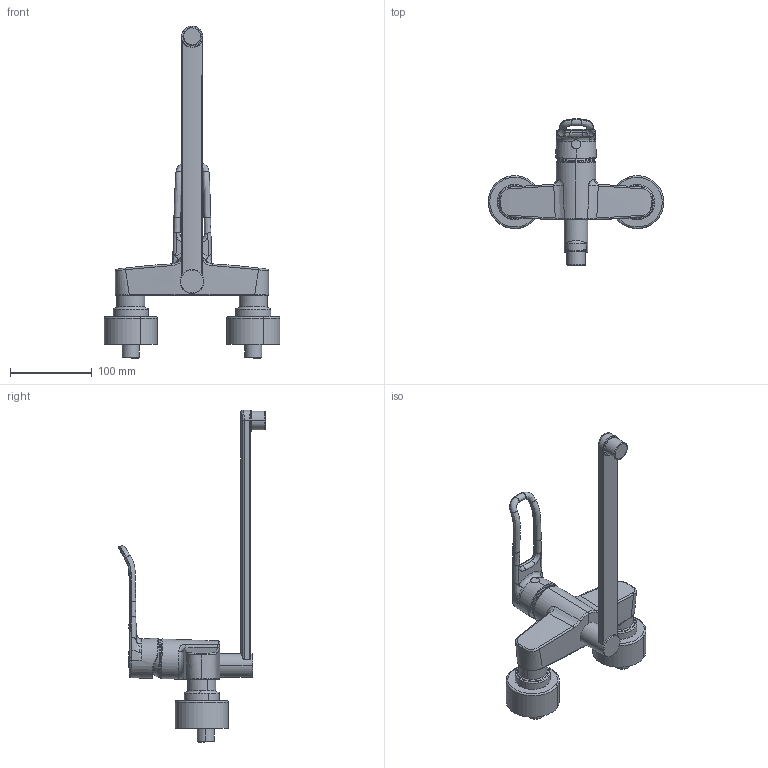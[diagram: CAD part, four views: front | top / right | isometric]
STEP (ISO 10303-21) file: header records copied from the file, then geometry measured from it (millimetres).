
FILE_DESCRIPTION (( 'STEP AP203' ), '1' );
FILE_NAME ('01546286.STEP', '2018-10-11T10:27:13', ( '' ), ( '' ), 'SwSTEP 2.0', 'SolidWorks 2016', '' );
FILE_SCHEMA (( 'CONFIG_CONTROL_DESIGN' ));
Length unit declared in the file: millimetre
Products named in the file (1): 01546286
Bounding box: 214.94 x 179.53 x 406.48 mm (x, y, z)
Volume: 795506.3 mm3; surface area: 118342.6 mm2
Topology: 1 solids, 1 shells, 222 faces, 531 edges, 325 vertices
Faces by surface type: bspline 131, cylinder 45, plane 28, cone 12, torus 4, sphere 2
Entity records: 24511 total; most frequent: CARTESIAN_POINT 20275, ORIENTED_EDGE 1062, DIRECTION 568, EDGE_CURVE 531, VERTEX_POINT 325, B_SPLINE_CURVE_WITH_KNOTS 274, AXIS2_PLACEMENT_3D 243, EDGE_LOOP 238
